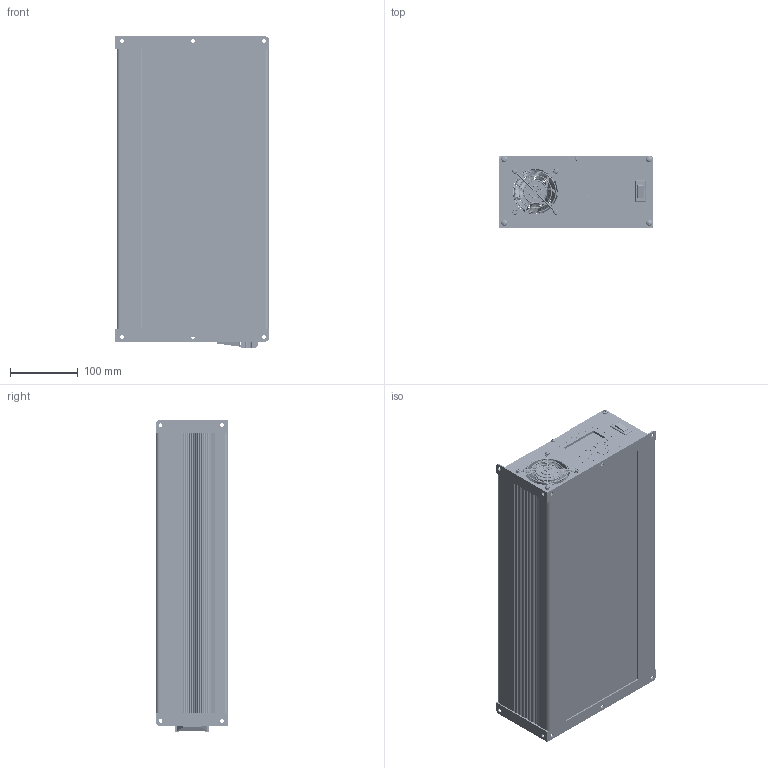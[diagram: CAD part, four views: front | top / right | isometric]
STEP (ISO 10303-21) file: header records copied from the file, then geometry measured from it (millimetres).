
FILE_DESCRIPTION(/* description */ ('','CAx-IF Rec.Pracs.---Representation and Presentation of Product Manufacturing Information (PMI)---4.0---2014-10-13'),/* implementation_level */ '2;1');
FILE_NAME(/* name */ 'G:\06_WPT_고객용 도면\[ TX controller ]\2022~ [고객용]\$2021.09.30_TX Controller_양산용_Shrinkwrap_1.stp',/* time_stamp */ '2022-01-19T14:16:46+09:00',/* author */ ('jjang'),/* organization */ (''),/* preprocessor_version */ 'ST-DEVELOPER v18.1',/* originating_system */ 'Autodesk Inventor 2021',/* authorisation */ '');
FILE_SCHEMA (('AP242_MANAGED_MODEL_BASED_3D_ENGINEERING_MIM_LF { 1 0 10303 442 1 1 4 }'));
Products named in the file (1): $2021.09.30_TX Controller_양산용_Shrink
wrap_1
Bounding box: 227 x 107 x 459.79 mm (x, y, z)
Volume: 1180077.6 mm3; surface area: 829408.1 mm2
Topology: 13 solids, 13 shells, 7907 faces, 21926 edges, 14432 vertices
Faces by surface type: plane 4284, cylinder 1547, bspline 1508, torus 351, cone 184, sphere 33
Full cylindrical faces by diameter (mm): 0.457 x1, 0.6 x17, 0.8 x8, 0.9 x4, 1 x55, 1.1 x2, 1.2 x18, 1.3 x8, 1.6 x5, 1.794 x8, 2.388 x1, 2.5 x27, 2.987 x12, 3 x23, 3.05 x2, 3.2 x3, 3.3 x5, 3.385 x1, 3.6 x5, 3.8 x8, 4 x45, 4.3 x16, 4.5 x13, 4.9 x23, 4.902 x1, 5 x18, 5.1 x14, 5.4 x2, 5.5 x16, 5.7 x2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
Entity records: 320324 total; most frequent: CARTESIAN_POINT 119101, ORIENTED_EDGE 43808, DIRECTION 35619, EDGE_CURVE 21904, VERTEX_POINT 14432, LINE 13283, VECTOR 13283, AXIS2_PLACEMENT_3D 11168
